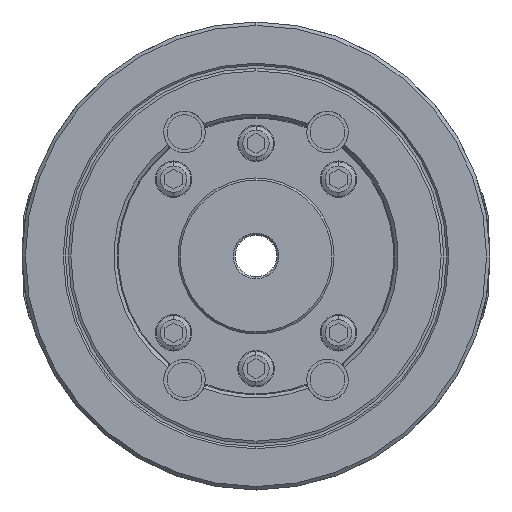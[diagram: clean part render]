
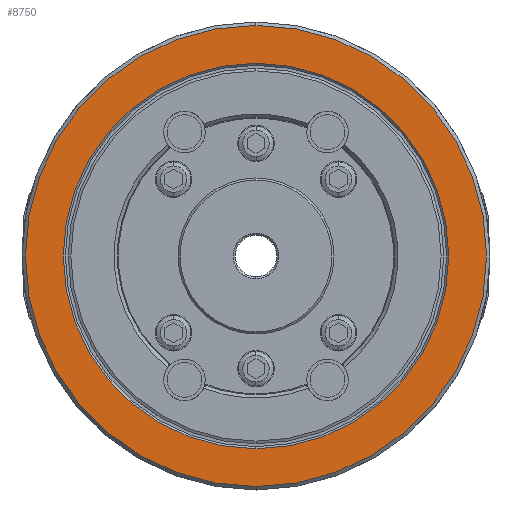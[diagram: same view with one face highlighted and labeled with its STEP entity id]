
A CAD part, left-side view. The second image highlights one B-rep face of the part: STEP entity #8750.
In plain terms, the highlighted planar face has unit normal (-1, 0, 0).
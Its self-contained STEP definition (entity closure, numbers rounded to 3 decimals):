
#2469 = CARTESIAN_POINT ( 'NONE',  ( -60., 0., 0. ) ) ;
#3329 = EDGE_CURVE ( 'NONE', #20366, #45729, #32430, .T. ) ;
#4937 = DIRECTION ( 'NONE',  ( 0., 0., 1. ) ) ;
#7623 = DIRECTION ( 'NONE',  ( 0., 0., -1. ) ) ;
#7631 = CIRCLE ( 'NONE', #30469, 55.6 ) ;
#8750 = ADVANCED_FACE ( 'NONE', ( #33477, #47092 ), #35723, .T. ) ;
#13287 = AXIS2_PLACEMENT_3D ( 'NONE', #30538, #50963, #4937 ) ;
#14660 = DIRECTION ( 'NONE',  ( 1., 0., 0. ) ) ;
#17050 = CARTESIAN_POINT ( 'NONE',  ( -60., 0., -55.6 ) ) ;
#18168 = CARTESIAN_POINT ( 'NONE',  ( -60., 0., 0. ) ) ;
#18816 = ORIENTED_EDGE ( 'NONE', *, *, #51554, .T. ) ;
#19463 = EDGE_LOOP ( 'NONE', ( #26529, #43482 ) ) ;
#20366 = VERTEX_POINT ( 'NONE', #40602 ) ;
#21118 = AXIS2_PLACEMENT_3D ( 'NONE', #25266, #61202, #30430 ) ;
#23321 = DIRECTION ( 'NONE',  ( 0., 0., -1. ) ) ;
#25266 = CARTESIAN_POINT ( 'NONE',  ( -60., 0., 0. ) ) ;
#26529 = ORIENTED_EDGE ( 'NONE', *, *, #59804, .F. ) ;
#26696 = EDGE_CURVE ( 'NONE', #36258, #62198, #47824, .T. ) ;
#30430 = DIRECTION ( 'NONE',  ( 0., 0., -1. ) ) ;
#30469 = AXIS2_PLACEMENT_3D ( 'NONE', #2469, #38427, #7623 ) ;
#30538 = CARTESIAN_POINT ( 'NONE',  ( -60., 0., -66.5 ) ) ;
#32430 = CIRCLE ( 'NONE', #39890, 55.6 ) ;
#33452 = ORIENTED_EDGE ( 'NONE', *, *, #3329, .T. ) ;
#33477 = FACE_BOUND ( 'NONE', #48163, .T. ) ;
#35723 = PLANE ( 'NONE',  #13287 ) ;
#36258 = VERTEX_POINT ( 'NONE', #54741 ) ;
#38427 = DIRECTION ( 'NONE',  ( 1., 0., 0. ) ) ;
#39890 = AXIS2_PLACEMENT_3D ( 'NONE', #45488, #14660, #50621 ) ;
#40602 = CARTESIAN_POINT ( 'NONE',  ( -60., 0., 55.6 ) ) ;
#43482 = ORIENTED_EDGE ( 'NONE', *, *, #26696, .F. ) ;
#45488 = CARTESIAN_POINT ( 'NONE',  ( -60., 0., 0. ) ) ;
#45729 = VERTEX_POINT ( 'NONE', #17050 ) ;
#47019 = CIRCLE ( 'NONE', #57491, 66.5 ) ;
#47092 = FACE_OUTER_BOUND ( 'NONE', #19463, .T. ) ;
#47824 = CIRCLE ( 'NONE', #21118, 66.5 ) ;
#48163 = EDGE_LOOP ( 'NONE', ( #33452, #18816 ) ) ;
#50621 = DIRECTION ( 'NONE',  ( 0., 0., -1. ) ) ;
#50963 = DIRECTION ( 'NONE',  ( -1., 0., 0. ) ) ;
#51554 = EDGE_CURVE ( 'NONE', #45729, #20366, #7631, .T. ) ;
#54087 = DIRECTION ( 'NONE',  ( 1., 0., 0. ) ) ;
#54741 = CARTESIAN_POINT ( 'NONE',  ( -60., 0., 66.5 ) ) ;
#57491 = AXIS2_PLACEMENT_3D ( 'NONE', #18168, #54087, #23321 ) ;
#58758 = CARTESIAN_POINT ( 'NONE',  ( -60., 0., -66.5 ) ) ;
#59804 = EDGE_CURVE ( 'NONE', #62198, #36258, #47019, .T. ) ;
#61202 = DIRECTION ( 'NONE',  ( 1., 0., 0. ) ) ;
#62198 = VERTEX_POINT ( 'NONE', #58758 ) ;
